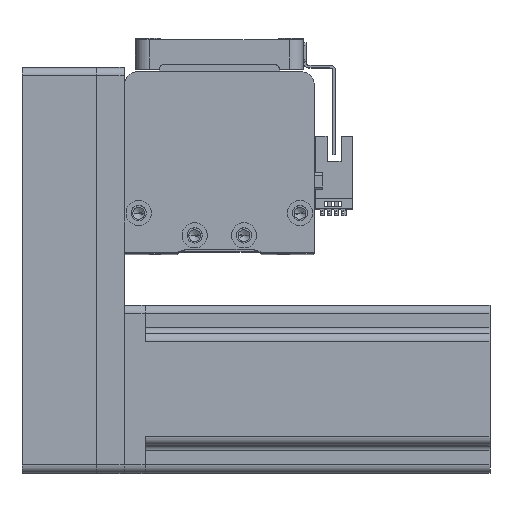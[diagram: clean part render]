
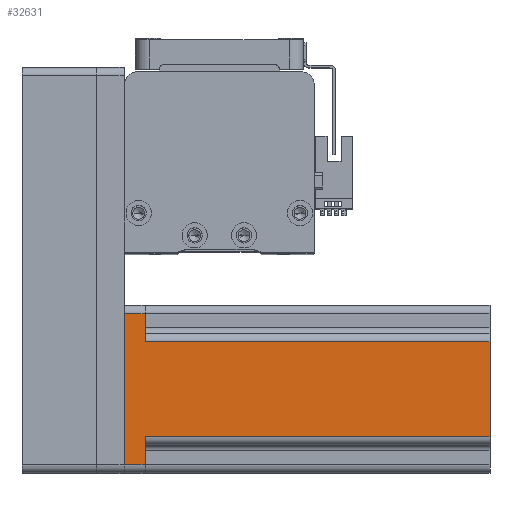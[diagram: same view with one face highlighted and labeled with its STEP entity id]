
A CAD part, top view. The second image highlights one B-rep face of the part: STEP entity #32631.
In plain terms, the highlighted planar face has unit normal (0, 0, 1) as drawn and (0, -1, 0) by its records, which use the part's own axes.
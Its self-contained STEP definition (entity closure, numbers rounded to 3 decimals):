
#591 = VECTOR ( 'NONE', #2085, 1000. ) ;
#1250 = ORIENTED_EDGE ( 'NONE', *, *, #31746, .F. ) ;
#2085 = DIRECTION ( 'NONE',  ( 0., 0., 1. ) ) ;
#2371 = VERTEX_POINT ( 'NONE', #24213 ) ;
#2609 = DIRECTION ( 'NONE',  ( 1., 0., 0. ) ) ;
#3147 = LINE ( 'NONE', #35763, #37461 ) ;
#6007 = VERTEX_POINT ( 'NONE', #38715 ) ;
#6111 = VECTOR ( 'NONE', #29059, 1000. ) ;
#6936 = DIRECTION ( 'NONE',  ( 1., 0., 0. ) ) ;
#8468 = LINE ( 'NONE', #25834, #42814 ) ;
#8911 = CARTESIAN_POINT ( 'NONE',  ( 17., -30., 130.7 ) ) ;
#9301 = LINE ( 'NONE', #14421, #42598 ) ;
#11821 = EDGE_CURVE ( 'NONE', #2371, #17106, #8468, .T. ) ;
#14421 = CARTESIAN_POINT ( 'NONE',  ( -20., -30., 7.5 ) ) ;
#15140 = ORIENTED_EDGE ( 'NONE', *, *, #32070, .T. ) ;
#17106 = VERTEX_POINT ( 'NONE', #41242 ) ;
#17270 = ORIENTED_EDGE ( 'NONE', *, *, #31922, .F. ) ;
#17505 = ORIENTED_EDGE ( 'NONE', *, *, #34242, .T. ) ;
#17715 = DIRECTION ( 'NONE',  ( 1., 0., 0. ) ) ;
#18232 = DIRECTION ( 'NONE',  ( 0., 1., 0. ) ) ;
#18422 = CARTESIAN_POINT ( 'NONE',  ( 27., -30., 130.7 ) ) ;
#18484 = CARTESIAN_POINT ( 'NONE',  ( -17., -30., 7.5 ) ) ;
#19016 = VERTEX_POINT ( 'NONE', #42674 ) ;
#19961 = DIRECTION ( 'NONE',  ( 0., 0., -1. ) ) ;
#20071 = CARTESIAN_POINT ( 'NONE',  ( 30., -30., 130.7 ) ) ;
#21187 = EDGE_LOOP ( 'NONE', ( #1250, #23832, #17270, #17505, #42892, #15140, #29810, #32067 ) ) ;
#21822 = DIRECTION ( 'NONE',  ( 0., 0., 1. ) ) ;
#22674 = DIRECTION ( 'NONE',  ( -1., 0., 0. ) ) ;
#23832 = ORIENTED_EDGE ( 'NONE', *, *, #34103, .T. ) ;
#24213 = CARTESIAN_POINT ( 'NONE',  ( -27., -30., 0. ) ) ;
#24278 = LINE ( 'NONE', #40012, #35187 ) ;
#24884 = PLANE ( 'NONE',  #32285 ) ;
#25194 = CARTESIAN_POINT ( 'NONE',  ( -27., -30., 7.5 ) ) ;
#25409 = LINE ( 'NONE', #20071, #33189 ) ;
#25709 = CARTESIAN_POINT ( 'NONE',  ( -17., -30., 130.7 ) ) ;
#25834 = CARTESIAN_POINT ( 'NONE',  ( 30., -30., 0. ) ) ;
#26108 = EDGE_CURVE ( 'NONE', #29563, #35752, #27060, .T. ) ;
#27060 = LINE ( 'NONE', #28902, #591 ) ;
#28353 = FACE_OUTER_BOUND ( 'NONE', #21187, .T. ) ;
#28902 = CARTESIAN_POINT ( 'NONE',  ( 17., -30., 130.7 ) ) ;
#29059 = DIRECTION ( 'NONE',  ( 0., 0., -1. ) ) ;
#29518 = LINE ( 'NONE', #18422, #36309 ) ;
#29563 = VERTEX_POINT ( 'NONE', #39684 ) ;
#29810 = ORIENTED_EDGE ( 'NONE', *, *, #30489, .T. ) ;
#29943 = VERTEX_POINT ( 'NONE', #25194 ) ;
#30489 = EDGE_CURVE ( 'NONE', #19016, #29563, #3147, .T. ) ;
#31402 = VERTEX_POINT ( 'NONE', #18484 ) ;
#31746 = EDGE_CURVE ( 'NONE', #6007, #35752, #25409, .T. ) ;
#31922 = EDGE_CURVE ( 'NONE', #29943, #31402, #9301, .T. ) ;
#32067 = ORIENTED_EDGE ( 'NONE', *, *, #26108, .T. ) ;
#32070 = EDGE_CURVE ( 'NONE', #17106, #19016, #29518, .T. ) ;
#32285 = AXIS2_PLACEMENT_3D ( 'NONE', #38227, #18232, #41617 ) ;
#32600 = LINE ( 'NONE', #25709, #6111 ) ;
#32631 = ADVANCED_FACE ( 'NONE', ( #28353 ), #24884, .F. ) ;
#33189 = VECTOR ( 'NONE', #6936, 1000. ) ;
#34103 = EDGE_CURVE ( 'NONE', #6007, #31402, #32600, .T. ) ;
#34242 = EDGE_CURVE ( 'NONE', #29943, #2371, #24278, .T. ) ;
#35187 = VECTOR ( 'NONE', #19961, 1000. ) ;
#35752 = VERTEX_POINT ( 'NONE', #8911 ) ;
#35763 = CARTESIAN_POINT ( 'NONE',  ( 20., -30., 7.5 ) ) ;
#36309 = VECTOR ( 'NONE', #21822, 1000. ) ;
#37461 = VECTOR ( 'NONE', #22674, 1000. ) ;
#38227 = CARTESIAN_POINT ( 'NONE',  ( 30., -30., 130.7 ) ) ;
#38715 = CARTESIAN_POINT ( 'NONE',  ( -17., -30., 130.7 ) ) ;
#39684 = CARTESIAN_POINT ( 'NONE',  ( 17., -30., 7.5 ) ) ;
#40012 = CARTESIAN_POINT ( 'NONE',  ( -27., -30., 130.7 ) ) ;
#41242 = CARTESIAN_POINT ( 'NONE',  ( 27., -30., 0. ) ) ;
#41617 = DIRECTION ( 'NONE',  ( -1., 0., 0. ) ) ;
#42598 = VECTOR ( 'NONE', #17715, 1000. ) ;
#42674 = CARTESIAN_POINT ( 'NONE',  ( 27., -30., 7.5 ) ) ;
#42814 = VECTOR ( 'NONE', #2609, 1000. ) ;
#42892 = ORIENTED_EDGE ( 'NONE', *, *, #11821, .T. ) ;
